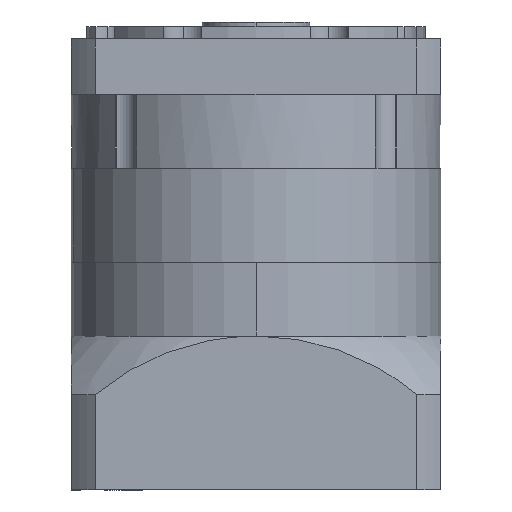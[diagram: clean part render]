
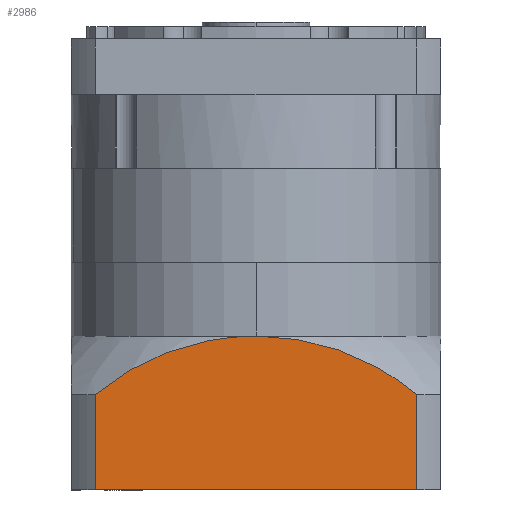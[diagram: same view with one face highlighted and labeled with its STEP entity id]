
A CAD part, left-side view. The second image highlights one B-rep face of the part: STEP entity #2986.
In plain terms, the highlighted planar face has unit normal (-1, 0, 0) as drawn and (0, 1, 0) by its records, which use the part's own axes.
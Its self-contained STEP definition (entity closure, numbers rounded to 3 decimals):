
#191 = CARTESIAN_POINT ( 'NONE',  ( -60., 60., -53. ) ) ;
#445 = CARTESIAN_POINT ( 'NONE',  ( 0., 60., -3. ) ) ;
#510 = AXIS2_PLACEMENT_3D ( 'NONE', #41612, #41462, #41408 ) ;
#2510 = CARTESIAN_POINT ( 'NONE',  ( 4.756, 60., -3.131 ) ) ;
#2986 = ADVANCED_FACE ( 'NONE', ( #16291 ), #41693, .T. ) ;
#4028 = CARTESIAN_POINT ( 'NONE',  ( -16.416, 60., -4.641 ) ) ;
#5901 = CARTESIAN_POINT ( 'NONE',  ( 52.156, 60., -22. ) ) ;
#6019 = CARTESIAN_POINT ( 'NONE',  ( 38.546, 60., -12.698 ) ) ;
#6159 = CARTESIAN_POINT ( 'NONE',  ( 1.19, 60., -3. ) ) ;
#6965 = DIRECTION ( 'NONE',  ( 0., 0., -1. ) ) ;
#7679 = CARTESIAN_POINT ( 'NONE',  ( -22.137, 60., -6.065 ) ) ;
#7739 = CARTESIAN_POINT ( 'NONE',  ( -52.156, 60., -22. ) ) ;
#8610 = ORIENTED_EDGE ( 'NONE', *, *, #19779, .F. ) ;
#9698 = CARTESIAN_POINT ( 'NONE',  ( 33.242, 60., -10.107 ) ) ;
#10129 = B_SPLINE_CURVE_WITH_KNOTS ( 'NONE', 3,
 ( #445, #22159, #25811, #4028, #29475, #7679, #33053, #11375, #36674, #15005, #40262, #18644, #43770, #22329 ),
 .UNSPECIFIED., .F., .F.,
 ( 4, 2, 2, 2, 2, 2, 4 ),
 ( 0., 0.014, 0.021, 0.025, 0.028, 0.042, 0.056 ),
 .UNSPECIFIED. ) ;
#11375 = CARTESIAN_POINT ( 'NONE',  ( -25.537, 60., -7.109 ) ) ;
#12615 = DIRECTION ( 'NONE',  ( 0., 0., -1. ) ) ;
#13163 = LINE ( 'NONE', #191, #21686 ) ;
#13198 = CARTESIAN_POINT ( 'NONE',  ( 48.515, 60., -18.934 ) ) ;
#13347 = CARTESIAN_POINT ( 'NONE',  ( 29.959, 60., -8.718 ) ) ;
#14430 = VERTEX_POINT ( 'NONE', #30023 ) ;
#14471 = VERTEX_POINT ( 'NONE', #28875 ) ;
#15005 = CARTESIAN_POINT ( 'NONE',  ( -32.258, 60., -9.53 ) ) ;
#16085 = CARTESIAN_POINT ( 'NONE',  ( -52.156, 60., 0. ) ) ;
#16291 = FACE_OUTER_BOUND ( 'NONE', #45118, .T. ) ;
#16820 = ORIENTED_EDGE ( 'NONE', *, *, #30431, .F. ) ;
#16984 = CARTESIAN_POINT ( 'NONE',  ( 23.294, 60., -6.267 ) ) ;
#18644 = CARTESIAN_POINT ( 'NONE',  ( -44.646, 60., -16.225 ) ) ;
#19779 = EDGE_CURVE ( 'NONE', #29860, #44249, #10129, .T. ) ;
#20652 = CARTESIAN_POINT ( 'NONE',  ( 11.817, 60., -3.829 ) ) ;
#21686 = VECTOR ( 'NONE', #25704, 1000. ) ;
#21751 = B_SPLINE_CURVE_WITH_KNOTS ( 'NONE', 3,
 ( #45524, #13198, #27803, #6019, #31424, #9698, #35024, #13347, #38607, #16984, #42202, #20652, #45677, #24309, #2510, #27963, #6159, #31564 ),
 .UNSPECIFIED., .F., .F.,
 ( 4, 2, 2, 2, 2, 2, 2, 2, 4 ),
 ( 0., 0.014, 0.021, 0.025, 0.028, 0.042, 0.049, 0.053, 0.056 ),
 .UNSPECIFIED. ) ;
#22159 = CARTESIAN_POINT ( 'NONE',  ( -4.77, 60., -3. ) ) ;
#22329 = CARTESIAN_POINT ( 'NONE',  ( -52.156, 60., -22. ) ) ;
#22336 = LINE ( 'NONE', #28777, #41486 ) ;
#23717 = EDGE_CURVE ( 'NONE', #14471, #14430, #13163, .T. ) ;
#24309 = CARTESIAN_POINT ( 'NONE',  ( 5.943, 60., -3.209 ) ) ;
#25704 = DIRECTION ( 'NONE',  ( -1., 0., 0. ) ) ;
#25811 = CARTESIAN_POINT ( 'NONE',  ( -9.47, 60., -3.417 ) ) ;
#27064 = VECTOR ( 'NONE', #12615, 1000. ) ;
#27280 = ORIENTED_EDGE ( 'NONE', *, *, #45387, .T. ) ;
#27803 = CARTESIAN_POINT ( 'NONE',  ( 44.654, 60., -16.23 ) ) ;
#27963 = CARTESIAN_POINT ( 'NONE',  ( 2.379, 60., -3.026 ) ) ;
#28777 = CARTESIAN_POINT ( 'NONE',  ( 52.156, 60., -53. ) ) ;
#28875 = CARTESIAN_POINT ( 'NONE',  ( 52.156, 60., -53. ) ) ;
#29475 = CARTESIAN_POINT ( 'NONE',  ( -18.715, 60., -5.149 ) ) ;
#29860 = VERTEX_POINT ( 'NONE', #46546 ) ;
#30023 = CARTESIAN_POINT ( 'NONE',  ( -52.156, 60., -53. ) ) ;
#30431 = EDGE_CURVE ( 'NONE', #44249, #14430, #36594, .T. ) ;
#30470 = VERTEX_POINT ( 'NONE', #5901 ) ;
#31424 = CARTESIAN_POINT ( 'NONE',  ( 36.457, 60., -11.608 ) ) ;
#31564 = CARTESIAN_POINT ( 'NONE',  ( 0., 60., -3. ) ) ;
#33053 = CARTESIAN_POINT ( 'NONE',  ( -23.273, 60., -6.396 ) ) ;
#35024 = CARTESIAN_POINT ( 'NONE',  ( 32.157, 60., -9.629 ) ) ;
#35239 = ORIENTED_EDGE ( 'NONE', *, *, #37623, .F. ) ;
#36222 = ORIENTED_EDGE ( 'NONE', *, *, #23717, .T. ) ;
#36594 = LINE ( 'NONE', #16085, #27064 ) ;
#36674 = CARTESIAN_POINT ( 'NONE',  ( -26.667, 60., -7.493 ) ) ;
#37623 = EDGE_CURVE ( 'NONE', #30470, #29860, #21751, .T. ) ;
#38607 = CARTESIAN_POINT ( 'NONE',  ( 28.852, 60., -8.288 ) ) ;
#40262 = CARTESIAN_POINT ( 'NONE',  ( -36.521, 60., -11.527 ) ) ;
#41408 = DIRECTION ( 'NONE',  ( -1., 0., 0. ) ) ;
#41462 = DIRECTION ( 'NONE',  ( 0., 1., 0. ) ) ;
#41486 = VECTOR ( 'NONE', #6965, 1000. ) ;
#41612 = CARTESIAN_POINT ( 'NONE',  ( -60., 60., -53. ) ) ;
#41693 = PLANE ( 'NONE',  #510 ) ;
#42202 = CARTESIAN_POINT ( 'NONE',  ( 18.757, 60., -5.055 ) ) ;
#43770 = CARTESIAN_POINT ( 'NONE',  ( -48.507, 60., -18.927 ) ) ;
#44249 = VERTEX_POINT ( 'NONE', #7739 ) ;
#45118 = EDGE_LOOP ( 'NONE', ( #8610, #35239, #27280, #36222, #16820 ) ) ;
#45387 = EDGE_CURVE ( 'NONE', #30470, #14471, #22336, .T. ) ;
#45524 = CARTESIAN_POINT ( 'NONE',  ( 52.156, 60., -22. ) ) ;
#45677 = CARTESIAN_POINT ( 'NONE',  ( 9.481, 60., -3.52 ) ) ;
#46546 = CARTESIAN_POINT ( 'NONE',  ( 0., 60., -3. ) ) ;
